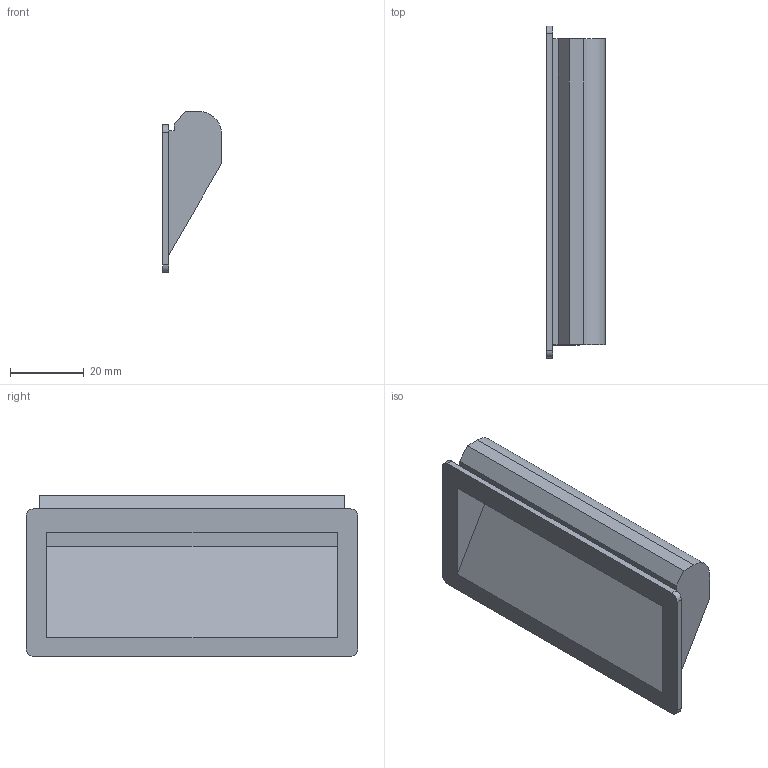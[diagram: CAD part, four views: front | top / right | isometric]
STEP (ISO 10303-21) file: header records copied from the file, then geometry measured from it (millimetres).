
FILE_DESCRIPTION((''),'2;1');
FILE_NAME('6501.stp','2013-12-02T09:30:52',(''),(''),'Mechanical Desktop 2006','Mechanical Desktop 2006',', , ');
FILE_SCHEMA(('CONFIG_CONTROL_DESIGN'));
Length unit declared in the file: millimetre
Products named in the file (2): 6501; TEIL1
Assembly tree (1 placements, depth 2):
  6501
    TEIL1
Bounding box: 16 x 90 x 43.6 mm (x, y, z)
Volume: 10775.1 mm3; surface area: 13213.9 mm2
Topology: 1 solids, 1 shells, 26 faces, 66 edges, 44 vertices
Faces by surface type: plane 20, cylinder 6
Entity records: 891 total; most frequent: CARTESIAN_POINT 138, DIRECTION 134, ORIENTED_EDGE 132, EDGE_CURVE 66, VECTOR 54, LINE 54, VERTEX_POINT 44, AXIS2_PLACEMENT_3D 40
